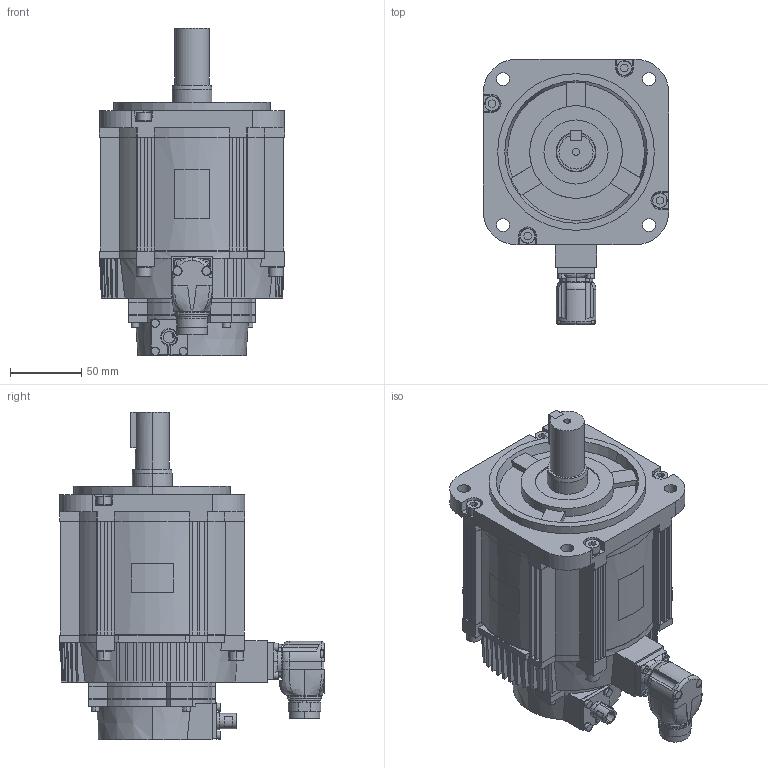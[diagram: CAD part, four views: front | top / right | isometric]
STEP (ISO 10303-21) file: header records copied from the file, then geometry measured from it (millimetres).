
FILE_DESCRIPTION (( 'STEP AP214' ), '1' );
FILE_NAME ('sgm7g_20d_r6f.STEP', '2016-08-23T14:14:49', ( '安川電機' ), ( 'YASKAWA' ), 'SwSTEP 2.0', 'SolidWorks 2006303', '' );
FILE_SCHEMA (( 'AUTOMOTIVE_DESIGN' ));
Length unit declared in the file: millimetre
Products named in the file (4): sgm7g_20d_r6f_key_蹬怮椔; sgm7g_20d_r6f_connector; sgm7g_20d_r6f_base_蹬怮椔; sgm7g_20d_r6f
Assembly tree (3 placements, depth 2):
  sgm7g_20d_r6f
    sgm7g_20d_r6f_key_蹬怮椔
    sgm7g_20d_r6f_base_蹬怮椔
    sgm7g_20d_r6f_connector
Bounding box: 130 x 185.9 x 230.1 mm (x, y, z)
Volume: 2118580.5 mm3; surface area: 161211.4 mm2
Topology: 3 solids, 3 shells, 993 faces, 2616 edges, 1700 vertices
Faces by surface type: plane 642, cylinder 234, cone 88, bspline 20, torus 9
Entity records: 43292 total; most frequent: CARTESIAN_POINT 7517, ORIENTED_EDGE 5228, DIRECTION 5115, EDGE_CURVE 2614, AXIS2_PLACEMENT_3D 1753, VERTEX_POINT 1700, VECTOR 1609, LINE 1609
